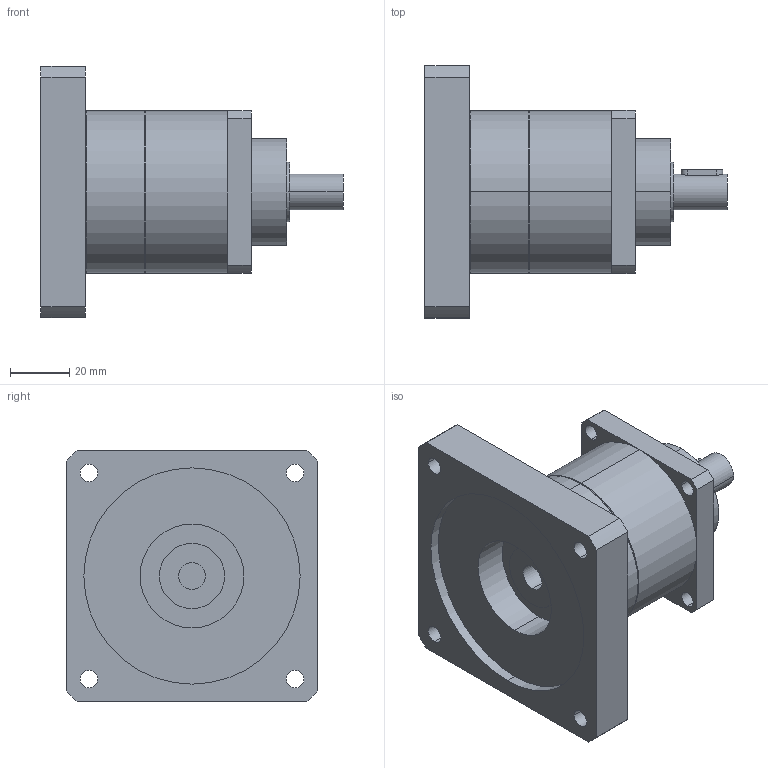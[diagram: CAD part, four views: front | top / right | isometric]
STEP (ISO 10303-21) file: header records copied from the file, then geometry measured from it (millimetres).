
FILE_DESCRIPTION(('CoCreate Modeling STEP Export'),'2;1');
FILE_NAME('GPT55_ig-3-4-5-7-10_12_B5A_9_P36.stp','2014-08-25T14:36:15',(''),(''),'CoCreate Modeling STEP processor for AP214 (Solid Model)','CoCreate Modeling 16.00C 25-Feb-2009 (C) Parametric Technology GmbH','');
FILE_SCHEMA(('AUTOMOTIVE_DESIGN { 1 0 10303 214 1 1 1 1 }'));
Length unit declared in the file: millimetre
Products named in the file (2): GPT55_ig-3-4-5-7-10_12_B5A_9_P36
Assembly tree (1 placements, depth 2):
  GPT55_ig-3-4-5-7-10_12_B5A_9_P36
    GPT55_ig-3-4-5-7-10_12_B5A_9_P36
Bounding box: 102 x 85 x 85 mm (x, y, z)
Volume: 232092.1 mm3; surface area: 37253.2 mm2
Topology: 1 solids, 1 shells, 77 faces, 204 edges, 139 vertices
Faces by surface type: cylinder 46, plane 27, cone 4
Entity records: 2515 total; most frequent: CARTESIAN_POINT 710, ORIENTED_EDGE 408, DIRECTION 318, EDGE_CURVE 204, VERTEX_POINT 139, AXIS2_PLACEMENT_3D 117, EDGE_LOOP 103, VECTOR 84
